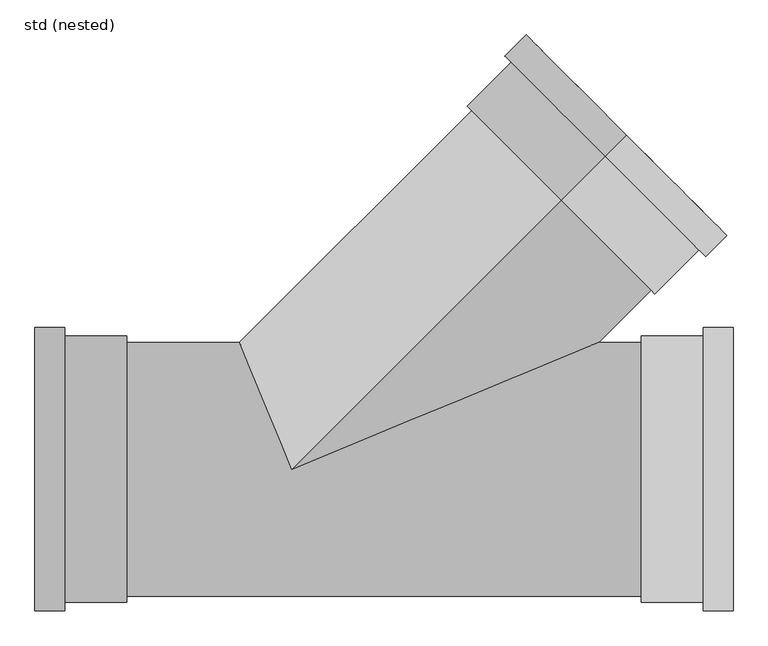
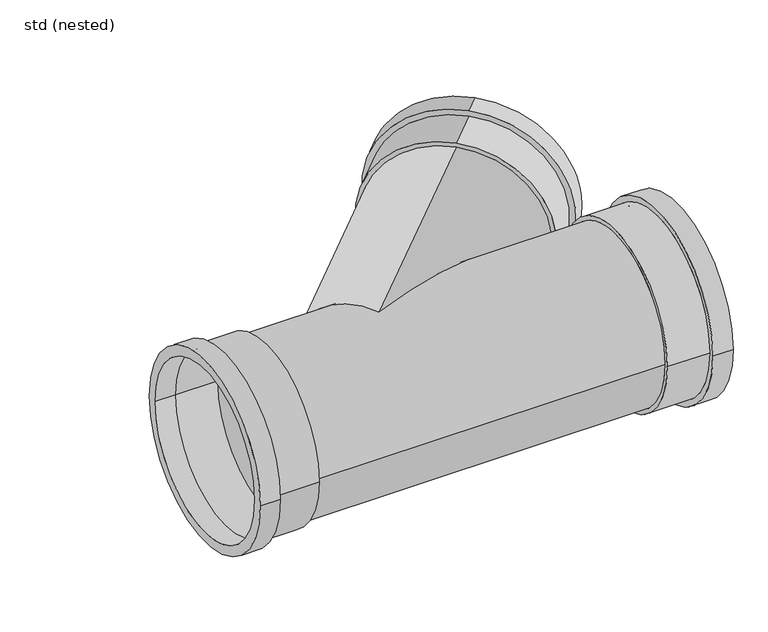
"""IFC4 building model written with IfcOpenShell, lengths in millimetres: pipe fitting geometry, NLRS_52_PIF_UN_SN4 SN8 T-stuk -SH_Dyka : std (nested)."""

import ifcopenshell
import ifcopenshell.guid

model = None  # the IFC model being written
_history = None  # IfcOwnerHistory: only IFC2X3 demands one
_inside = {}  # id of a spatial element -> (the spatial element, [elements in it])
_under = {}  # id of a project, library or spatial element -> (it, [spatial elements below it])
_declared = {}  # id of a project -> (the project, [libraries it declares])
_typed = {}  # id of a type object -> (the type object, [elements of that type])
_made_of = {}  # id of a material, layer set ... -> (it, [elements and type objects made of it])


def new_model(schema):
    """Start an empty IFC model of exactly this schema.

    Asked for "IFC4X3", IfcOpenShell would pick the latest addendum, in which some entities
    have other attributes; the version numbers below select the first issue.
    IFC2X3 requires an IfcOwnerHistory on every rooted entity: one is made here for all.
    """
    global model, _history
    if schema == "IFC4X3":
        model = ifcopenshell.file(schema_version=(4, 3, 0, 0))
    else:
        model = ifcopenshell.file(schema=schema)
    _inside.clear()
    _under.clear()
    _declared.clear()
    _typed.clear()
    _made_of.clear()
    _history = None
    if model.schema == "IFC2X3":
        org = make("IfcOrganization", Name="unknown")
        user = make(
            "IfcPersonAndOrganization",
            ThePerson=make("IfcPerson", FamilyName="unknown"),
            TheOrganization=org,
        )
        app = make(
            "IfcApplication",
            ApplicationDeveloper=org,
            Version="unknown",
            ApplicationFullName="unknown",
            ApplicationIdentifier="unknown",
        )
        _history = make(
            "IfcOwnerHistory",
            OwningUser=user,
            OwningApplication=app,
            ChangeAction="ADDED",
            CreationDate=0,
        )
    return model


def make(cls, **values):
    """One entity of the class cls with the attributes given. An attribute that is None is left unset."""
    return model.create_entity(
        cls, **{name: value for name, value in values.items() if value is not None}
    )


def rooted(cls, **values):
    """An entity with a GlobalId (a new one), such as an element, a storey or a relation."""
    return make(cls, GlobalId=ifcopenshell.guid.new(), OwnerHistory=_history, **values)


def si_unit(unit_type, name, prefix=None):
    """IfcSIUnit, for example si_unit("LENGTHUNIT", "METRE", prefix="MILLI")."""
    return make("IfcSIUnit", UnitType=unit_type, Prefix=prefix, Name=name)


def assignment(units):
    """IfcUnitAssignment: the units of a project."""
    return None if units is None else make("IfcUnitAssignment", Units=units)


def point(xyz):
    """IfcCartesianPoint."""
    return None if xyz is None else make("IfcCartesianPoint", Coordinates=xyz)


def direction(xyz):
    """IfcDirection."""
    return None if xyz is None else make("IfcDirection", DirectionRatios=xyz)


def frame(location, z_axis=None, x_axis=None):
    """IfcAxis2Placement3D, a coordinate frame: its origin and axes. An axis left out is left unset."""
    return make(
        "IfcAxis2Placement3D",
        Location=point(location),
        Axis=direction(z_axis),
        RefDirection=direction(x_axis),
    )


def frame_2d(location, x_axis=None):
    """IfcAxis2Placement2D, a coordinate frame in the plane: its origin and x axis."""
    return make(
        "IfcAxis2Placement2D", Location=point(location), RefDirection=direction(x_axis)
    )


def origin():
    """The frame at (0, 0, 0) with its axes left unset."""
    return frame((0.0, 0.0, 0.0))


def origin_2d():
    """The frame at (0, 0) in the plane with its x axis left unset."""
    return frame_2d((0.0, 0.0))


def place(relative_to, where):
    """IfcLocalPlacement: puts the frame where relative to a parent placement (None: the world)."""
    return make(
        "IfcLocalPlacement", PlacementRelTo=relative_to, RelativePlacement=where
    )


def context(
    kind, dimensions, precision=None, world=None, true_north=None, identifier=None
):
    """IfcGeometricRepresentationContext, for example the 3D "Model" context."""
    return make(
        "IfcGeometricRepresentationContext",
        ContextIdentifier=identifier,
        ContextType=kind,
        CoordinateSpaceDimension=dimensions,
        Precision=precision,
        WorldCoordinateSystem=world,
        TrueNorth=true_north,
    )


def project(units=None, contexts=None):
    """IfcProject with its units and contexts."""
    return rooted(
        "IfcProject",
        Name="project",
        RepresentationContexts=contexts,
        UnitsInContext=assignment(units),
    )


def spatial(cls, under=None, at=None, **own):
    """A site, building, storey or space (cls), placed at a placement, below another one or the project."""
    s = rooted(cls, ObjectPlacement=at, **own)
    if under is not None:
        _under.setdefault(under.id(), (under, []))[1].append(s)
    return s


def polyline(points):
    """IfcPolyline through the points."""
    return make("IfcPolyline", Points=[point(p) for p in points])


def circle_curve(where, radius):
    """IfcCircle in the frame where."""
    return make("IfcCircle", Position=where, Radius=radius)


def ellipse_curve(where, semi_axis1, semi_axis2):
    """IfcEllipse in the frame where."""
    return make(
        "IfcEllipse", Position=where, SemiAxis1=semi_axis1, SemiAxis2=semi_axis2
    )


def trimmed(basis, trim1, trim2, sense, master):
    """IfcTrimmedCurve: the piece of a basis curve between two trims."""
    return make(
        "IfcTrimmedCurve",
        BasisCurve=basis,
        Trim1=trim1,
        Trim2=trim2,
        SenseAgreement=sense,
        MasterRepresentation=master,
    )


def segment(curve, same_sense, transition):
    """IfcCompositeCurveSegment."""
    return make(
        "IfcCompositeCurveSegment",
        Transition=transition,
        SameSense=same_sense,
        ParentCurve=curve,
    )


def composite_curve(segments, self_intersect=None):
    """IfcCompositeCurve: segments joined end to end."""
    return make("IfcCompositeCurve", Segments=segments, SelfIntersect=self_intersect)


def outline(outer, holes=None, kind="AREA"):
    """IfcArbitraryClosedProfileDef: a profile drawn as a closed curve; with holes, ...WithVoids."""
    if holes is None:
        return make("IfcArbitraryClosedProfileDef", ProfileType=kind, OuterCurve=outer)
    return make(
        "IfcArbitraryProfileDefWithVoids",
        ProfileType=kind,
        OuterCurve=outer,
        InnerCurves=holes,
    )


def extrude(swept, where, along, depth):
    """IfcExtrudedAreaSolid: the profile swept, set in the frame where, extruded along a direction by depth."""
    return make(
        "IfcExtrudedAreaSolid",
        SweptArea=swept,
        Position=where,
        ExtrudedDirection=direction(along),
        Depth=depth,
    )


def shape(context_of_items, identifier, shape_type, items):
    """IfcShapeRepresentation: the items that make up one representation, for example the "Body"."""
    return make(
        "IfcShapeRepresentation",
        ContextOfItems=context_of_items,
        RepresentationIdentifier=identifier,
        RepresentationType=shape_type,
        Items=items,
    )


def source(mapping_origin, context_of_items, identifier, shape_type, items):
    """IfcRepresentationMap: a shape defined once, which mapped items show again and again."""
    return make(
        "IfcRepresentationMap",
        MappingOrigin=mapping_origin,
        MappedRepresentation=shape(context_of_items, identifier, shape_type, items),
    )


def transform(
    local_origin,
    x_axis=None,
    y_axis=None,
    z_axis=None,
    scale=None,
    scale2=None,
    scale3=None,
    uniform=True,
):
    """IfcCartesianTransformationOperator3D, or its non-uniform kind. x_axis, y_axis, z_axis: its Axis1, 2, 3."""
    if uniform:
        return make(
            "IfcCartesianTransformationOperator3D",
            Axis1=direction(x_axis),
            Axis2=direction(y_axis),
            LocalOrigin=point(local_origin),
            Scale=scale,
            Axis3=direction(z_axis),
        )
    return make(
        "IfcCartesianTransformationOperator3DnonUniform",
        Axis1=direction(x_axis),
        Axis2=direction(y_axis),
        LocalOrigin=point(local_origin),
        Scale=scale,
        Axis3=direction(z_axis),
        Scale2=scale2,
        Scale3=scale3,
    )


def mapped(mapping_source, mapping_target):
    """IfcMappedItem: shows the shape of a source again, moved by a transform."""
    return make(
        "IfcMappedItem", MappingSource=mapping_source, MappingTarget=mapping_target
    )


def made_of(thing, what):
    """Note that an element or type object is made of a material, layer set ...; save() writes the relation."""
    if what is not None:
        _made_of.setdefault(what.id(), (what, []))[1].append(thing)
    return thing


def element(
    cls,
    number,
    at=None,
    inside=None,
    cuts=None,
    type_object=None,
    material=None,
    context=None,
    identifier="Body",
    shape_type=None,
    held_by="IfcProductDefinitionShape",
    body=None,
    shapes=None,
    **own,
):
    """One element of the class cls, such as IfcWall. Its Tag is "e" and its number.

    at: its placement. inside: the storey or other place that contains it. cuts: it is an
    opening in that element (IfcRelVoidsElement). A single representation is given by context,
    identifier, shape_type and body (its items); several are given by shapes. held_by: the class
    of the entity that holds the representations. save() writes the other relations.
    """
    e = rooted(cls, Tag="e%d" % number, ObjectPlacement=at, **own)
    if body is not None:
        shapes = [shape(context, identifier, shape_type, body)]
    if shapes is not None:
        e.Representation = make(held_by, Representations=shapes)
    if inside is not None:
        _inside.setdefault(inside.id(), (inside, []))[1].append(e)
    if cuts is not None:
        rooted(
            "IfcRelVoidsElement", RelatingBuildingElement=cuts, RelatedOpeningElement=e
        )
    if type_object is not None:
        _typed.setdefault(type_object.id(), (type_object, []))[1].append(e)
    return made_of(e, material)


def aggregate(whole, parts):
    """IfcRelAggregates: a whole, such as a stair, and the parts it consists of."""
    return rooted("IfcRelAggregates", RelatingObject=whole, RelatedObjects=parts)


def save(model, path):
    """Write the relations noted so far, then the file.

    IfcRelAggregates (storeys below a building ...), IfcRelContainedInSpatialStructure (elements
    in a storey), IfcRelDefinesByType, IfcRelAssociatesMaterial and IfcRelDeclares: one each for
    every whole, place, type object, material and project.
    """
    for whole, parts in _under.values():
        aggregate(whole, parts)
    for where, things in _inside.values():
        rooted(
            "IfcRelContainedInSpatialStructure",
            RelatedElements=things,
            RelatingStructure=where,
        )
    for kind, things in _typed.values():
        rooted("IfcRelDefinesByType", RelatedObjects=things, RelatingType=kind)
    for what, things in _made_of.values():
        rooted("IfcRelAssociatesMaterial", RelatedObjects=things, RelatingMaterial=what)
    for by, libraries in _declared.values():
        rooted("IfcRelDeclares", RelatingContext=by, RelatedDefinitions=libraries)
    model.write(path)


def plane_surface(at):
    """IfcPlane: the flat surface through the origin of the frame at, square to its z axis."""
    return make("IfcPlane", Position=at)


def cylinder_surface(at, radius):
    """IfcCylindricalSurface: all points at the distance radius from the z axis of the frame at."""
    return make("IfcCylindricalSurface", Position=at, Radius=radius)


def revolved_surface(curve, axis_point, axis_direction):
    """IfcSurfaceOfRevolution: the curve turned about the line through axis_point along axis_direction."""
    return make(
        "IfcSurfaceOfRevolution",
        SweptCurve=make("IfcArbitraryOpenProfileDef", ProfileType="CURVE", Curve=curve),
        AxisPosition=make("IfcAxis1Placement", Location=point(axis_point), Axis=direction(axis_direction)),
    )


def advanced_brep(points, edges, surfaces, faces):
    """IfcAdvancedBrep: a solid bounded by faces that lie on surfaces and meet in shared edges.

    An edge is (start, end): straight between two places in points (the first is 0);
    or (start, end, curve); or (start, end, curve, False) where it runs against its curve.
    A face is (place in surfaces, loops), or (place, loops, False) where it looks against
    its surface's normal. A loop lists edges by number (the first is 1), with a minus sign
    where the edge is run from its end to its start. The first loop is the outer one.
    """
    corners = [point(p) for p in points]
    vertices = [make("IfcVertexPoint", VertexGeometry=c) for c in corners]
    made = []
    for start, end, *more in edges:
        made.append(
            make(
                "IfcEdgeCurve",
                EdgeStart=vertices[start],
                EdgeEnd=vertices[end],
                EdgeGeometry=more[0] if more else make("IfcPolyline", Points=[corners[start], corners[end]]),
                SameSense=more[1] if len(more) > 1 else True,
            )
        )
    hull = []
    for where, loops, *sense in faces:
        bounds = []
        for j, loop in enumerate(loops):
            ring = [make("IfcOrientedEdge", EdgeElement=made[abs(k) - 1], Orientation=k > 0) for k in loop]
            bounds.append(
                make(
                    "IfcFaceOuterBound" if j == 0 else "IfcFaceBound",
                    Bound=make("IfcEdgeLoop", EdgeList=ring),
                    Orientation=True,
                )
            )
        hull.append(make("IfcAdvancedFace", Bounds=bounds, FaceSurface=surfaces[where], SameSense=sense[0] if sense else True))
    return make("IfcAdvancedBrep", Outer=make("IfcClosedShell", CfsFaces=hull))


def std_nested_d5e23566(model_context):
    return source(origin(), model_context, "Body", "SolidModel", [
        advanced_brep(
        [(526.8817993, 526.7072903, -223.5), (526.8817993, 526.7072903, 223.5), (526.8817993, 526.7072903, -200.0), (526.8817993, 526.7072903, 200.0), (493.6422764, 493.4787766, -200.0), (493.6422764, 493.4787766, 200.0), (493.6422764, 493.4787766, -223.5), (493.6422764, 493.4787766, 223.5), (424.334335, 424.1937908, -209.9), (424.334335, 424.1937908, 209.9), (424.334335, 424.1937908, -200.0), (424.334335, 424.1937908, 200.0), (493.6422764, 493.4787766, 209.9), (493.6422764, 493.4787766, -209.9)],
        [
            (0, 1, circle_curve(frame((526.8817993, 526.7072903, 0.0), z_axis=(0.7072238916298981, 0.7069896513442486, 0.0), x_axis=(0.0, 0.0, 1.0)), 223.5)),
            (1, 0, circle_curve(frame((526.8817993, 526.7072903, 0.0), z_axis=(0.7072238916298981, 0.7069896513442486, 0.0), x_axis=(0.0, 0.0, 1.0)), 223.5)),
            (2, 3, circle_curve(frame((526.8817993, 526.7072903, 0.0), z_axis=(-0.7072238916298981, -0.7069896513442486, 0.0), x_axis=(0.0, 0.0, 1.0)), 200.0)),
            (3, 2, circle_curve(frame((526.8817993, 526.7072903, 0.0), z_axis=(-0.7072238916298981, -0.7069896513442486, 0.0), x_axis=(0.0, 0.0, 1.0)), 200.0)),
            (2, 4),
            (4, 5, circle_curve(frame((493.6422764, 493.4787766, 0.0), z_axis=(-0.7072238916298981, -0.7069896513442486, 0.0), x_axis=(0.0, 0.0, 1.0)), 200.0)),
            (5, 3),
            (5, 4, circle_curve(frame((493.6422764, 493.4787766, 0.0), z_axis=(-0.7072238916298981, -0.7069896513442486, 0.0), x_axis=(0.0, 0.0, 1.0)), 200.0)),
            (0, 6),
            (6, 7, circle_curve(frame((493.6422764, 493.4787766, 0.0), z_axis=(0.7072238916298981, 0.7069896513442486, 0.0), x_axis=(0.0, 0.0, 1.0)), 223.5)),
            (7, 1),
            (7, 6, circle_curve(frame((493.6422764, 493.4787766, 0.0), z_axis=(0.7072238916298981, 0.7069896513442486, 0.0), x_axis=(0.0, 0.0, 1.0)), 223.5)),
            (8, 9, circle_curve(frame((424.334335, 424.1937908, 0.0), z_axis=(-0.7072238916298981, -0.7069896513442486, 0.0), x_axis=(0.0, 0.0, 1.0)), 209.9)),
            (9, 8, circle_curve(frame((424.334335, 424.1937908, 0.0), z_axis=(-0.7072238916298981, -0.7069896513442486, 0.0), x_axis=(0.0, 0.0, 1.0)), 209.9)),
            (10, 11, circle_curve(frame((424.334335, 424.1937908, 0.0), z_axis=(0.7072238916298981, 0.7069896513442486, 0.0), x_axis=(0.0, 0.0, 1.0)), 200.0)),
            (11, 10, circle_curve(frame((424.334335, 424.1937908, 0.0), z_axis=(0.7072238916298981, 0.7069896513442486, 0.0), x_axis=(0.0, 0.0, 1.0)), 200.0)),
            (11, 5),
            (4, 10),
            (9, 12),
            (12, 13, circle_curve(frame((493.6422764, 493.4787766, 0.0), z_axis=(-0.7072238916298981, -0.7069896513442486, 0.0), x_axis=(0.0, 0.0, 1.0)), 209.9)),
            (13, 8),
            (13, 12, circle_curve(frame((493.6422764, 493.4787766, 0.0), z_axis=(-0.7072238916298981, -0.7069896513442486, 0.0), x_axis=(0.0, 0.0, 1.0)), 209.9)),
        ],
        [
            plane_surface(frame((526.8817993, 526.7072903, 200.0), z_axis=(0.7072238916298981, 0.7069896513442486, 0.0), x_axis=(-0.7069896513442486, 0.7072238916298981, 0.0))),
            revolved_surface(polyline([(493.6422764, 493.4787766, 200.0), (526.8817993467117, 526.7072902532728, 200.0)]), (493.6422764, 493.4787766, 0.0), (-0.7072238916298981, -0.7069896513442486, 0.0)),
            cylinder_surface(frame((424.334335, 424.1937908, 0.0), z_axis=(0.7072238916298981, 0.7069896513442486, 0.0), x_axis=(0.0, 0.0, 1.0)), 223.5),
            plane_surface(frame((424.334335, 424.1937908, 200.0), z_axis=(-0.7072238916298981, -0.7069896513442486, 0.0), x_axis=(0.7069896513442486, -0.7072238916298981, 0.0))),
            revolved_surface(polyline([(424.334335, 424.1937908, 200.0), (493.6422763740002, 493.4787766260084, 200.0)]), (424.334335, 424.1937908, 0.0), (-0.7072238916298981, -0.7069896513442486, 0.0)),
            cylinder_surface(frame((424.334335, 424.1937908, 0.0), z_axis=(0.7072238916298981, 0.7069896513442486, 0.0), x_axis=(0.0, 0.0, 1.0)), 209.9),
            plane_surface(frame((493.6422764, 493.4787766, 200.0), z_axis=(-0.7072238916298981, -0.7069896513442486, 0.0), x_axis=(0.7069896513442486, -0.7072238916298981, 0.0))),
        ],
        [
            (0, [[1, 2], [3, 4]]),
            (1, [[-3, 5, 6, 7]]),
            (1, [[-4, -7, 8, -5]]),
            (2, [[-1, 9, 10, 11]]),
            (2, [[-2, -11, 12, -9]]),
            (3, [[13, 14], [15, 16]]),
            (4, [[-16, 17, -6, 18]]),
            (4, [[-15, -18, -8, -17]]),
            (5, [[-14, 19, 20, 21]]),
            (5, [[-13, -21, 22, -19]]),
            (6, [[-12, -10], [-20, -22]]),
        ],
    ),
        advanced_brep(
        [(695.0, 223.5, 0.0), (695.0, -223.5, 0.0), (695.0, 200.0, 0.0), (695.0, -200.0, 0.0), (648.0, 200.0, 0.0), (648.0, -200.0, 0.0), (648.0, 223.5, 0.0), (648.0, -223.5, 0.0), (550.0, 209.9, 0.0), (550.0, -209.9, 0.0), (550.0, 200.0, 0.0), (550.0, -200.0, 0.0), (648.0, -209.9, 0.0), (648.0, 209.9, 0.0)],
        [
            (0, 1, circle_curve(frame((695.0, 0.0, 0.0), z_axis=(1.0, 0.0, 0.0), x_axis=(0.0, -1.0, 0.0)), 223.5)),
            (1, 0, circle_curve(frame((695.0, 0.0, 0.0), z_axis=(1.0, 0.0, 0.0), x_axis=(0.0, -1.0, 0.0)), 223.5)),
            (2, 3, circle_curve(frame((695.0, 0.0, 0.0), z_axis=(-1.0, 0.0, 0.0), x_axis=(0.0, -1.0, 0.0)), 200.0)),
            (3, 2, circle_curve(frame((695.0, 0.0, 0.0), z_axis=(-1.0, 0.0, 0.0), x_axis=(0.0, -1.0, 0.0)), 200.0)),
            (2, 4),
            (4, 5, circle_curve(frame((648.0, 0.0, 0.0), z_axis=(-1.0, 0.0, 0.0), x_axis=(0.0, -1.0, 0.0)), 200.0)),
            (5, 3),
            (5, 4, circle_curve(frame((648.0, 0.0, 0.0), z_axis=(-1.0, 0.0, 0.0), x_axis=(0.0, -1.0, 0.0)), 200.0)),
            (0, 6),
            (6, 7, circle_curve(frame((648.0, 0.0, 0.0), z_axis=(1.0, 0.0, 0.0), x_axis=(0.0, -1.0, 0.0)), 223.5)),
            (7, 1),
            (7, 6, circle_curve(frame((648.0, 0.0, 0.0), z_axis=(1.0, 0.0, 0.0), x_axis=(0.0, -1.0, 0.0)), 223.5)),
            (8, 9, circle_curve(frame((550.0, 0.0, 0.0), z_axis=(-1.0, 0.0, 0.0), x_axis=(0.0, -1.0, 0.0)), 209.9)),
            (9, 8, circle_curve(frame((550.0, 0.0, 0.0), z_axis=(-1.0, 0.0, 0.0), x_axis=(0.0, -1.0, 0.0)), 209.9)),
            (10, 11, circle_curve(frame((550.0, 0.0, 0.0), z_axis=(1.0, 0.0, 0.0), x_axis=(0.0, -1.0, 0.0)), 200.0)),
            (11, 10, circle_curve(frame((550.0, 0.0, 0.0), z_axis=(1.0, 0.0, 0.0), x_axis=(0.0, -1.0, 0.0)), 200.0)),
            (11, 5),
            (4, 10),
            (9, 12),
            (12, 13, circle_curve(frame((648.0, 0.0, 0.0), z_axis=(-1.0, 0.0, 0.0), x_axis=(0.0, -1.0, 0.0)), 209.9)),
            (13, 8),
            (13, 12, circle_curve(frame((648.0, 0.0, 0.0), z_axis=(-1.0, 0.0, 0.0), x_axis=(0.0, -1.0, 0.0)), 209.9)),
        ],
        [
            plane_surface(frame((695.0, -200.0, 0.0), z_axis=(1.0, 0.0, 0.0), x_axis=(0.0, 0.0, 1.0))),
            revolved_surface(polyline([(648.0, -200.0, 0.0), (695.0, -200.0, 0.0)]), (648.0, 0.0, 0.0), (-1.0, 0.0, 0.0)),
            cylinder_surface(frame((550.0, 0.0, 0.0), z_axis=(1.0, 0.0, 0.0), x_axis=(0.0, -1.0, 0.0)), 223.5),
            plane_surface(frame((550.0, -200.0, 0.0), z_axis=(-1.0, 0.0, 0.0), x_axis=(0.0, 0.0, -1.0))),
            revolved_surface(polyline([(550.0, -200.0, 0.0), (648.0, -200.0, 0.0)]), (550.0, 0.0, 0.0), (-1.0, 0.0, 0.0)),
            cylinder_surface(frame((550.0, 0.0, 0.0), z_axis=(1.0, 0.0, 0.0), x_axis=(0.0, -1.0, 0.0)), 209.9),
            plane_surface(frame((648.0, -200.0, 0.0), z_axis=(-1.0, 0.0, 0.0), x_axis=(0.0, 0.0, -1.0))),
        ],
        [
            (0, [[1, 2], [3, 4]]),
            (1, [[-3, 5, 6, 7]]),
            (1, [[-4, -7, 8, -5]]),
            (2, [[-1, 9, 10, 11]]),
            (2, [[-2, -11, 12, -9]]),
            (3, [[13, 14], [15, 16]]),
            (4, [[-16, 17, -6, 18]]),
            (4, [[-15, -18, -8, -17]]),
            (5, [[-14, 19, 20, 21]]),
            (5, [[-13, -21, 22, -19]]),
            (6, [[-12, -10], [-20, -22]]),
        ],
    ),
        advanced_brep(
        [(-405.0, -223.5, 0.0), (-405.0, 223.5, 0.0), (-405.0, -200.0, 0.0), (-405.0, 200.0, 0.0), (-358.0, -200.0, 0.0), (-358.0, 200.0, 0.0), (-358.0, -223.5, 0.0), (-358.0, 223.5, 0.0), (-260.0, -209.9, 0.0), (-260.0, 209.9, 0.0), (-260.0, -200.0, 0.0), (-260.0, 200.0, 0.0), (-358.0, 209.9, 0.0), (-358.0, -209.9, 0.0)],
        [
            (0, 1, circle_curve(frame((-405.0, 0.0, 0.0), z_axis=(-1.0, 0.0, 0.0), x_axis=(0.0, 1.0, 0.0)), 223.5)),
            (1, 0, circle_curve(frame((-405.0, 0.0, 0.0), z_axis=(-1.0, 0.0, 0.0), x_axis=(0.0, 1.0, 0.0)), 223.5)),
            (2, 3, circle_curve(frame((-405.0, 0.0, 0.0), z_axis=(1.0, 0.0, 0.0), x_axis=(0.0, 1.0, 0.0)), 200.0)),
            (3, 2, circle_curve(frame((-405.0, 0.0, 0.0), z_axis=(1.0, 0.0, 0.0), x_axis=(0.0, 1.0, 0.0)), 200.0)),
            (2, 4),
            (4, 5, circle_curve(frame((-358.0, 0.0, 0.0), z_axis=(1.0, 0.0, 0.0), x_axis=(0.0, 1.0, 0.0)), 200.0)),
            (5, 3),
            (5, 4, circle_curve(frame((-358.0, 0.0, 0.0), z_axis=(1.0, 0.0, 0.0), x_axis=(0.0, 1.0, 0.0)), 200.0)),
            (0, 6),
            (6, 7, circle_curve(frame((-358.0, 0.0, 0.0), z_axis=(-1.0, 0.0, 0.0), x_axis=(0.0, 1.0, 0.0)), 223.5)),
            (7, 1),
            (7, 6, circle_curve(frame((-358.0, 0.0, 0.0), z_axis=(-1.0, 0.0, 0.0), x_axis=(0.0, 1.0, 0.0)), 223.5)),
            (8, 9, circle_curve(frame((-260.0, 0.0, 0.0), z_axis=(1.0, 0.0, 0.0), x_axis=(0.0, 1.0, 0.0)), 209.9)),
            (9, 8, circle_curve(frame((-260.0, 0.0, 0.0), z_axis=(1.0, 0.0, 0.0), x_axis=(0.0, 1.0, 0.0)), 209.9)),
            (10, 11, circle_curve(frame((-260.0, 0.0, 0.0), z_axis=(-1.0, 0.0, 0.0), x_axis=(0.0, 1.0, 0.0)), 200.0)),
            (11, 10, circle_curve(frame((-260.0, 0.0, 0.0), z_axis=(-1.0, 0.0, 0.0), x_axis=(0.0, 1.0, 0.0)), 200.0)),
            (11, 5),
            (4, 10),
            (9, 12),
            (12, 13, circle_curve(frame((-358.0, 0.0, 0.0), z_axis=(1.0, 0.0, 0.0), x_axis=(0.0, 1.0, 0.0)), 209.9)),
            (13, 8),
            (13, 12, circle_curve(frame((-358.0, 0.0, 0.0), z_axis=(1.0, 0.0, 0.0), x_axis=(0.0, 1.0, 0.0)), 209.9)),
        ],
        [
            plane_surface(frame((-405.0, 200.0, 0.0), z_axis=(-1.0, 0.0, 0.0), x_axis=(0.0, 0.0, 1.0))),
            revolved_surface(polyline([(-358.0, 200.0, 0.0), (-405.0, 200.0, 0.0)]), (-358.0, 0.0, 0.0), (1.0, 0.0, 0.0)),
            cylinder_surface(frame((-260.0, 0.0, 0.0), z_axis=(-1.0, 0.0, 0.0), x_axis=(0.0, 1.0, 0.0)), 223.5),
            plane_surface(frame((-260.0, 200.0, 0.0), z_axis=(1.0, 0.0, 0.0), x_axis=(0.0, 0.0, -1.0))),
            revolved_surface(polyline([(-260.0, 200.0, 0.0), (-358.0, 200.0, 0.0)]), (-260.0, 0.0, 0.0), (1.0, 0.0, 0.0)),
            cylinder_surface(frame((-260.0, 0.0, 0.0), z_axis=(-1.0, 0.0, 0.0), x_axis=(0.0, 1.0, 0.0)), 209.9),
            plane_surface(frame((-358.0, 200.0, 0.0), z_axis=(1.0, 0.0, 0.0), x_axis=(0.0, 0.0, -1.0))),
        ],
        [
            (0, [[1, 2], [3, 4]]),
            (1, [[-3, 5, 6, 7]]),
            (1, [[-4, -7, 8, -5]]),
            (2, [[-1, 9, 10, 11]]),
            (2, [[-2, -11, 12, -9]]),
            (3, [[13, 14], [15, 16]]),
            (4, [[-16, 17, -6, 18]]),
            (4, [[-15, -18, -8, -17]]),
            (5, [[-14, 19, 20, 21]]),
            (5, [[-13, -21, 22, -19]]),
            (6, [[-12, -10], [-20, -22]]),
        ],
    ),
        advanced_brep(
        [(-82.823308, 200.0, 0.0), (482.9558363, 200.0, 0.0), (0.0, 0.0, 200.0), (0.0, 0.0, -200.0), (424.334335, 424.1937908, -200.0), (424.334335, 424.1937908, 200.0)],
        [
            (0, 1),
            (1, 2, ellipse_curve(frame((0.0, 0.0, 0.0), z_axis=(0.38260691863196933, -0.9239112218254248, 0.0), x_axis=(0.923911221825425, 0.3826069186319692, 0.0)), 522.7297005, 200.0)),
            (2, 0, ellipse_curve(frame((0.0, 0.0, 0.0), z_axis=(-0.923911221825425, -0.38260691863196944, 0.0), x_axis=(0.38260691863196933, -0.923911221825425, 0.0)), 216.471015, 200.0)),
            (0, 3, ellipse_curve(frame((0.0, 0.0, 0.0), z_axis=(-0.923911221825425, -0.38260691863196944, 0.0), x_axis=(0.38260691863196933, -0.923911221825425, 0.0)), 216.471015, 200.0)),
            (3, 1, ellipse_curve(frame((0.0, 0.0, 0.0), z_axis=(0.38260691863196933, -0.9239112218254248, 0.0), x_axis=(0.923911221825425, 0.3826069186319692, 0.0)), 522.7297005, 200.0)),
            (4, 5, circle_curve(frame((424.334335, 424.1937908, 0.0), z_axis=(0.7072238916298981, 0.7069896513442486, 0.0), x_axis=(-0.7069896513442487, 0.7072238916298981, 0.0)), 200.0)),
            (5, 4, circle_curve(frame((424.334335, 424.1937908, 0.0), z_axis=(0.7072238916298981, 0.7069896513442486, 0.0), x_axis=(0.7069896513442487, -0.7072238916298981, 0.0)), 200.0)),
            (4, 3),
            (2, 5),
        ],
        [
            revolved_surface(polyline([(482.9558363, -200.0, 0.0), (-482.95583627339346, -200.0, 0.0)]), (-405.0, 0.0, 0.0), (1.0, 0.0, 0.0)),
            plane_surface(frame((424.334335, 424.1937908, 0.0), z_axis=(0.7072238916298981, 0.7069896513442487, 0.0), x_axis=(-0.7069896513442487, 0.7072238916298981, 0.0))),
            cylinder_surface(frame((424.334335, 424.1937908, 0.0), z_axis=(-0.7072238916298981, -0.7069896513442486, 0.0), x_axis=(-0.7069896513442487, 0.7072238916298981, 0.0)), 200.0),
            cylinder_surface(frame((424.334335, 424.1937908, 0.0), z_axis=(-0.7072238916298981, -0.7069896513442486, 0.0), x_axis=(0.7069896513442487, -0.7072238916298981, 0.0)), 200.0),
        ],
        [
            (0, [[1, 2, 3]]),
            (0, [[-1, 4, 5]]),
            (1, [[6, 7]]),
            (2, [[-6, 8, -4, -3, 9]]),
            (3, [[-7, -9, -2, -5, -8]]),
        ],
    ),
        extrude(outline(composite_curve([segment(trimmed(circle_curve(origin_2d(), 200.0), [point((-200.0, 0.0))], [point((200.0, 0.0))], False, "CARTESIAN"), True, "CONTINUOUS"), segment(trimmed(circle_curve(origin_2d(), 200.0), [point((200.0, 0.0))], [point((-200.0, 0.0))], False, "CARTESIAN"), True, "CONTINUOUS")], self_intersect=False)), frame((-260.0, 0.0, 0.0), z_axis=(1.0, 0.0, 0.0), x_axis=(0.0, 1.0, 0.0)), (0.0, 0.0, 1.0), 810.0),
    ])


if __name__ == "__main__":
    model = new_model("IFC4")
    model_context = context("Model", 3, world=origin())
    ifc_project = project(units=[si_unit("LENGTHUNIT", "METRE", prefix="MILLI")], contexts=[model_context])
    site = spatial("IfcSite", under=ifc_project)
    building = spatial("IfcBuilding", under=site)
    placement = place(None, origin())
    std_nested_shape = std_nested_d5e23566(model_context)
    element("IfcPipeFitting", 1, ObjectType="NLRS_52_PIF_UN_SN4 SN8 T-stuk -SH_Dyka : std (nested)", at=placement, inside=building, context=model_context, shape_type="MappedRepresentation", body=[
        mapped(std_nested_shape, transform((0.0, 0.0, 0.0), x_axis=(1.0, 0.0, 0.0), y_axis=(0.0, 1.0, 0.0), z_axis=(0.0, 0.0, 1.0))),
    ])
    save(model, "model.ifc")
